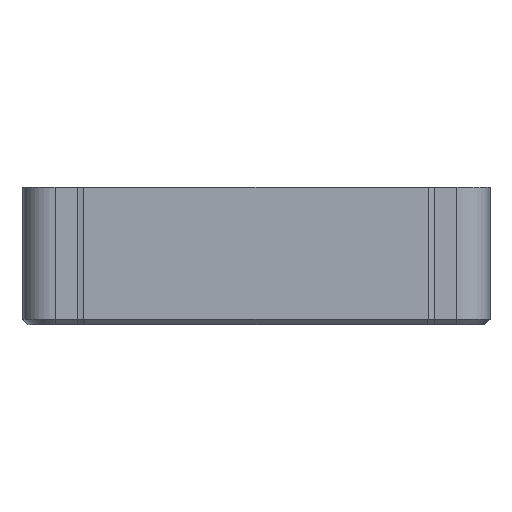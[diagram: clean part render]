
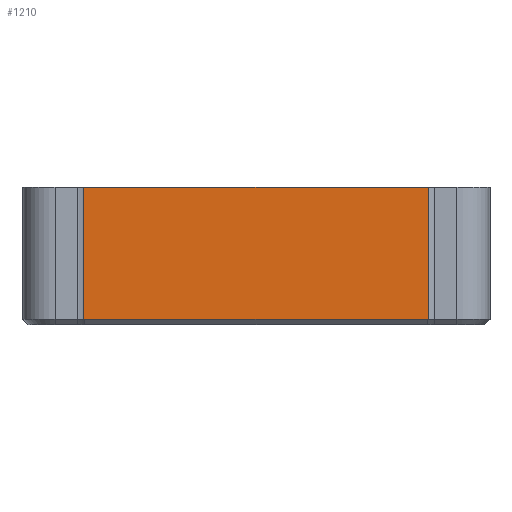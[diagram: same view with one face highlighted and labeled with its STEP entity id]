
A CAD part, front view. The second image highlights one B-rep face of the part: STEP entity #1210.
In plain terms, the highlighted planar face has unit normal (0, -1, 0).
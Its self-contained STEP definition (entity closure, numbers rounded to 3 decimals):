
#16 = VERTEX_POINT ( 'NONE', #1001 ) ;
#70 = CARTESIAN_POINT ( 'NONE',  ( 62.502, -110., 50. ) ) ;
#88 = EDGE_LOOP ( 'NONE', ( #973, #966, #190, #986 ) ) ;
#145 = VECTOR ( 'NONE', #1509, 1000. ) ;
#180 = DIRECTION ( 'NONE',  ( 0., 0., -1. ) ) ;
#190 = ORIENTED_EDGE ( 'NONE', *, *, #1320, .F. ) ;
#259 = CARTESIAN_POINT ( 'NONE',  ( -62.502, -110., 32. ) ) ;
#268 = DIRECTION ( 'NONE',  ( 0., 1., 0. ) ) ;
#425 = AXIS2_PLACEMENT_3D ( 'NONE', #1214, #268, #797 ) ;
#434 = VERTEX_POINT ( 'NONE', #473 ) ;
#473 = CARTESIAN_POINT ( 'NONE',  ( -62.502, -110., 50. ) ) ;
#484 = EDGE_CURVE ( 'NONE', #962, #16, #582, .T. ) ;
#489 = VECTOR ( 'NONE', #180, 1000. ) ;
#578 = DIRECTION ( 'NONE',  ( 1., 0., 0. ) ) ;
#582 = LINE ( 'NONE', #1107, #145 ) ;
#595 = CARTESIAN_POINT ( 'NONE',  ( -53., -110., 50. ) ) ;
#652 = EDGE_CURVE ( 'NONE', #434, #962, #917, .T. ) ;
#725 = LINE ( 'NONE', #595, #1677 ) ;
#797 = DIRECTION ( 'NONE',  ( 1., 0., 0. ) ) ;
#917 = LINE ( 'NONE', #259, #1651 ) ;
#922 = PLANE ( 'NONE',  #425 ) ;
#957 = FACE_OUTER_BOUND ( 'NONE', #88, .T. ) ;
#962 = VERTEX_POINT ( 'NONE', #1295 ) ;
#966 = ORIENTED_EDGE ( 'NONE', *, *, #484, .T. ) ;
#973 = ORIENTED_EDGE ( 'NONE', *, *, #652, .T. ) ;
#986 = ORIENTED_EDGE ( 'NONE', *, *, #1272, .F. ) ;
#990 = LINE ( 'NONE', #1642, #489 ) ;
#1001 = CARTESIAN_POINT ( 'NONE',  ( 62.502, -110., 2. ) ) ;
#1107 = CARTESIAN_POINT ( 'NONE',  ( 62.502, -110., 2. ) ) ;
#1210 = ADVANCED_FACE ( 'NONE', ( #957 ), #922, .F. ) ;
#1214 = CARTESIAN_POINT ( 'NONE',  ( -42.502, -110., 32. ) ) ;
#1272 = EDGE_CURVE ( 'NONE', #434, #1348, #725, .T. ) ;
#1295 = CARTESIAN_POINT ( 'NONE',  ( -62.502, -110., 2. ) ) ;
#1320 = EDGE_CURVE ( 'NONE', #1348, #16, #990, .T. ) ;
#1348 = VERTEX_POINT ( 'NONE', #70 ) ;
#1429 = DIRECTION ( 'NONE',  ( 0., 0., -1. ) ) ;
#1509 = DIRECTION ( 'NONE',  ( 1., 0., 0. ) ) ;
#1642 = CARTESIAN_POINT ( 'NONE',  ( 62.502, -110., 32. ) ) ;
#1651 = VECTOR ( 'NONE', #1429, 1000. ) ;
#1677 = VECTOR ( 'NONE', #578, 1000. ) ;
